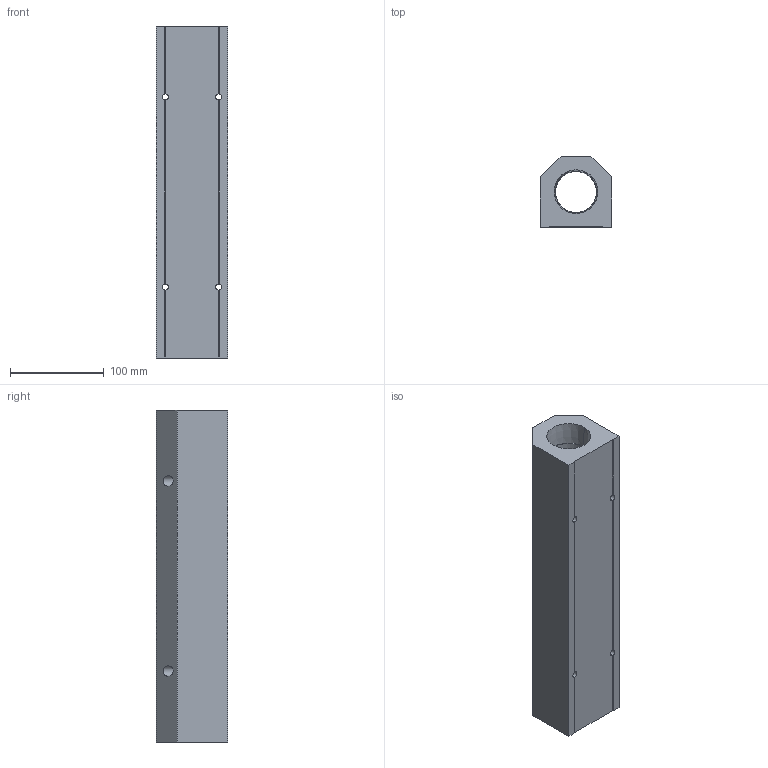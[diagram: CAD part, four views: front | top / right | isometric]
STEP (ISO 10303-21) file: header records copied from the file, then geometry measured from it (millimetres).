
FILE_DESCRIPTION (( 'STEP AP214' ), '1' );
FILE_NAME ('ALM6C-N4N24-355R.step', '2022-02-07T07:39:50', ( '' ), ( '' ), 'SwSTEP 2.0', 'SolidWorks 2020', '' );
FILE_SCHEMA (( 'AUTOMOTIVE_DESIGN' ));
Length unit declared in the file: millimetre
Products named in the file (1): ALM6C-N4N24-355R
Bounding box: 76.2 x 76.2 x 355 mm (x, y, z)
Volume: 1307184.4 mm3; surface area: 163653.3 mm2
Topology: 1 solids, 1 shells, 297 faces, 790 edges, 524 vertices
Faces by surface type: plane 201, bspline 62, cylinder 18, cone 16
Entity records: 16401 total; most frequent: CARTESIAN_POINT 6612, ORIENTED_EDGE 1580, DIRECTION 1158, EDGE_CURVE 790, VECTOR 590, LINE 590, VERTEX_POINT 524, EDGE_LOOP 348
